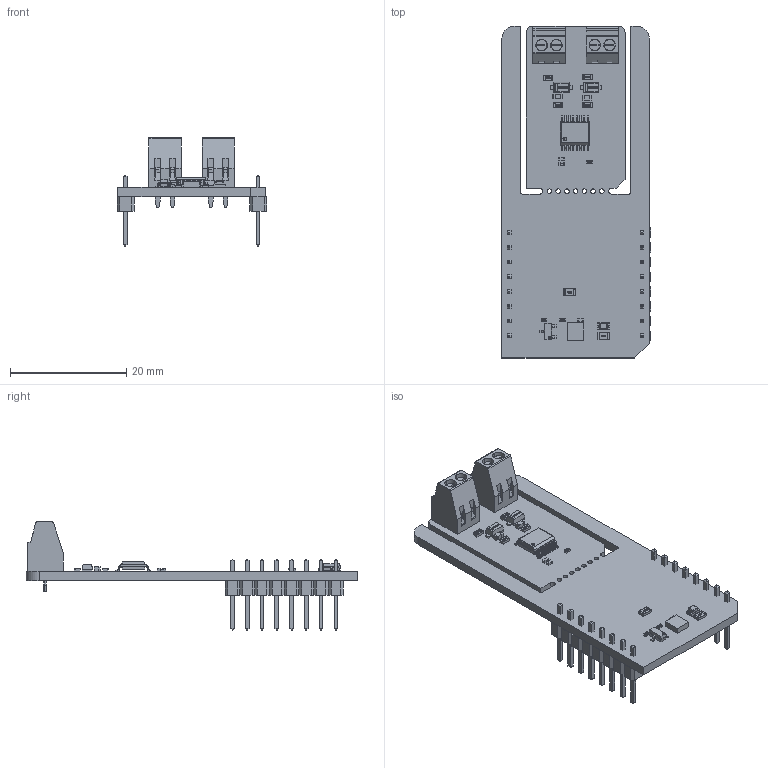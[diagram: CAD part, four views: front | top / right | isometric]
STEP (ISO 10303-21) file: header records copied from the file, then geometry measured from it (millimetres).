
FILE_DESCRIPTION(('Open CASCADE Model'),'2;1');
FILE_NAME('Open CASCADE Shape Model','2026-04-15T15:40:31',('Author'),( 'Open CASCADE'),'Open CASCADE STEP processor 7.5','Open CASCADE 7.5' ,'Unknown');
FILE_SCHEMA(('AUTOMOTIVE_DESIGN { 1 0 10303 214 1 1 1 1 }'));
Length unit declared in the file: millimetre
Products named in the file (44): PCB; Board; Open CASCADE STEP translator 7.5 3.1.1; R10; User Library-R_0402; TVS2; SOD123F; TVS1; R9; User Library-R_0603; R8; C5; User Library-SMD CAPACITOR0603; C4; JP1; User Library-R_0805; U2; User Library-MAX_QSOP16; TB2; ScrewTerminal 2.54; TB1; R5; R3; C3; User Library-SMD CAPACITOR0402; C2; R1; LD1; led_0805_green; R2; C1; R4; Q1; SOT23-3; U1; 9909166384; Extruded; MBD1; Header 1x8; Free-Models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
Assembly tree (56 placements, depth 7):
  PCB
    Board
      Open CASCADE STEP translator 7.5 3.1.1
    R10
      User Library-R_0402
    TVS2
      SOD123F
    TVS1
      SOD123F
    R9
      User Library-R_0603
    R8
      User Library-R_0603
    C5
      User Library-SMD CAPACITOR0603
    C4
      User Library-SMD CAPACITOR0603
    JP1
      User Library-R_0805
    U2
      User Library-MAX_QSOP16
    TB2
      ScrewTerminal 2.54
    TB1
      ScrewTerminal 2.54
    R5
      User Library-R_0603
    R3
      User Library-R_0603
    C3
      User Library-SMD CAPACITOR0402
    C2
      User Library-SMD CAPACITOR0402
    R1
      User Library-R_0805
    LD1
      led_0805_green
    R2
      User Library-R_0402
    C1
      User Library-SMD CAPACITOR0402
    R4
      User Library-R_0402
    Q1
      SOT23-3
    U1
      9909166384
        Extruded
    MBD1
      Header 1x8  x2
        PCB
          Free-Models
            1240637040  x2
              User_Library-PinHeaderX5-1_PinHeaderX5_Body_1
              User_Library-PinHeaderX5-1_PinHeaderX5_Pins_1
Bounding box: 25.78 x 57.15 x 18.61 mm (x, y, z)
Volume: 3059.3 mm3; surface area: 6196.8 mm2
Topology: 68 solids, 70 shells, 2421 faces, 6151 edges, 3923 vertices
Faces by surface type: plane 1702, bspline 390, cylinder 283, sphere 46
Full cylindrical faces by diameter (mm): 0.8 x7
Entity records: 49375 total; most frequent: CARTESIAN_POINT 14946, ORIENTED_EDGE 5818, DIRECTION 5142, EDGE_CURVE 2911, LINE 2236, VECTOR 2236, VERTEX_POINT 1863, AXIS2_PLACEMENT_3D 1453
